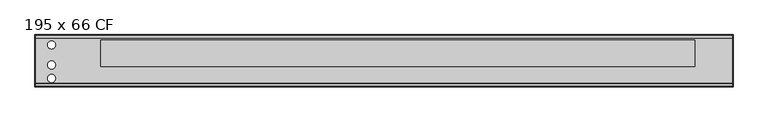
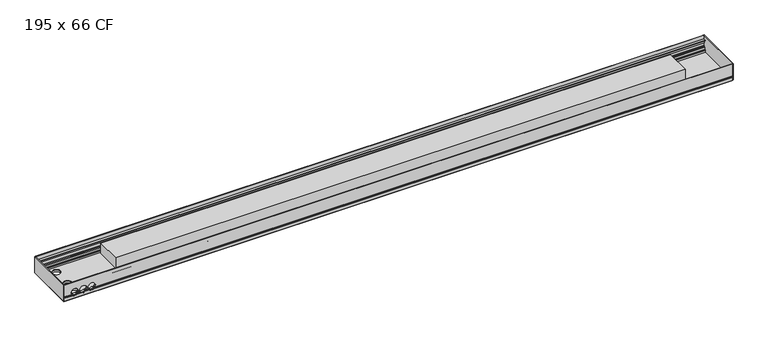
"""IFC4 building model written with IfcOpenShell, lengths in millimetres: proxy geometry, Mohlenhof_Внутрипольный конвектор_QSKM CF : 195 x 66 CF."""

from ifc_helpers import new_model, si_unit, point, frame, frame_2d, origin, place, context, project, spatial, polyline, circle_curve, ellipse_curve, trimmed, segment, composite_curve, outline, extrude, source, transform, mapped, element, save
from ifc_brep_helpers import plane_surface, revolved_surface, advanced_brep


def proxy_195_x_66_cf_5712bf5f(model_context):
    return source(origin(), model_context, "Body", "SolidModel", [
        advanced_brep(
        [(1298.0, -295.0, -48.5473602), (1298.0, -293.5, -49.2468216), (1298.0, -292.5, -49.2468216), (1298.0, -292.5, -46.0008038), (1298.0, -290.0, -46.0008038), (1298.0, -290.0, -56.5008038), (1298.0, -292.5, -56.5008038), (1298.0, -292.5, -53.2468216), (1298.0, -293.5, -53.2468216), (1298.0, -295.0, -53.9462831), (1298.0, -295.0, -66.5), (1298.0, -291.0, -66.5), (1298.0, -291.0, -65.2), (1298.0, -293.0, -65.2), (1298.0, -293.0, -62.5), (1298.0, -282.0, -62.5), (1298.0, -282.0, -54.9172677), (1298.0, -283.4172677, -53.5), (1298.0, -287.0, -53.5), (1298.0, -287.0, -45.91), (1298.0, -289.0, -43.91), (1298.0, -289.0, -39.5), (1298.0, -290.0, -39.5), (1298.0, -290.0, -43.5), (1298.0, -292.4956439, -43.5), (1298.0, -292.4956439, -23.0), (1298.0, -290.0, -23.0), (1298.0, -290.0, -27.0), (1298.0, -289.0, -27.0), (1298.0, -289.0, -17.0), (1298.0, -283.3956439, -17.0), (1298.0, -283.3956439, -15.0), (1298.0, -293.4, -15.0), (1298.0, -293.4, 0.0), (1298.0, -295.0, 0.0), (-1298.0, -295.0, -48.5473602), (-1298.0, -295.0, 0.0), (-1298.0, -293.4, 0.0), (-1298.0, -293.4, -15.0), (-1298.0, -283.3956439, -15.0), (-1298.0, -283.3956439, -17.0), (-1298.0, -289.0, -17.0), (-1298.0, -289.0, -27.0), (-1298.0, -290.0, -27.0), (-1298.0, -290.0, -23.0), (-1298.0, -292.4956439, -23.0), (-1298.0, -292.4956439, -43.5), (-1298.0, -290.0, -43.5), (-1298.0, -290.0, -39.5), (-1298.0, -289.0, -39.5), (-1298.0, -289.0, -43.91), (-1298.0, -287.0, -45.91), (-1298.0, -287.0, -53.5), (-1298.0, -283.4172677, -53.5), (-1298.0, -282.0, -54.9172677), (-1298.0, -282.0, -62.5), (-1298.0, -293.0, -62.5), (-1298.0, -293.0, -65.2), (-1298.0, -291.0, -65.2), (-1298.0, -291.0, -66.5), (-1298.0, -295.0, -66.5), (-1298.0, -295.0, -53.9462831), (-1298.0, -293.5, -53.2468216), (-1298.0, -292.5, -53.2468216), (-1298.0, -292.5, -56.5008038), (-1298.0, -290.0, -56.5008038), (-1298.0, -290.0, -46.0008038), (-1298.0, -292.5, -46.0008038), (-1298.0, -292.5, -49.2468216), (-1298.0, -293.5, -49.2468216), (-1178.7585985, -295.0, -48.5473602), (-1179.155283, -293.5, -49.2468216), (-1270.844717, -293.5, -49.2468216), (-1271.2414015, -295.0, -48.5473602), (-1238.2414015, -295.0, -48.5473602), (-1244.7585985, -295.0, -48.5473602), (-1245.155283, -293.5, -49.2468216), (-1237.844717, -293.5, -49.2468216), (-1205.2414015, -295.0, -48.5473602), (-1211.7585985, -295.0, -48.5473602), (-1212.155283, -293.5, -49.2468216), (-1204.844717, -293.5, -49.2468216), (-1179.155283, -292.5, -49.2468216), (-1270.844717, -292.5, -49.2468216), (-1245.155283, -292.5, -49.2468216), (-1237.844717, -292.5, -49.2468216), (-1212.155283, -292.5, -49.2468216), (-1204.844717, -292.5, -49.2468216), (-1177.6911648, -292.5, -46.0008038), (-1272.3088352, -292.5, -46.0008038), (-1243.6911648, -292.5, -46.0008038), (-1239.3088352, -292.5, -46.0008038), (-1210.6911648, -292.5, -46.0008038), (-1206.3088352, -292.5, -46.0008038), (-1177.6911648, -290.0, -46.0008038), (-1272.3088352, -290.0, -46.0008038), (-1243.6911648, -290.0, -46.0008038), (-1239.3088352, -290.0, -46.0008038), (-1210.6911648, -290.0, -46.0008038), (-1206.3088352, -290.0, -46.0008038), (-1267.328032, -292.5, -53.2468216), (-1248.671968, -292.5, -53.2468216), (-1234.328032, -292.5, -53.2468216), (-1215.671968, -292.5, -53.2468216), (-1201.328032, -292.5, -53.2468216), (-1182.671968, -292.5, -53.2468216), (-1182.671968, -293.5, -53.2468216), (-1267.328032, -293.5, -53.2468216), (-1248.671968, -293.5, -53.2468216), (-1234.328032, -293.5, -53.2468216), (-1215.671968, -293.5, -53.2468216), (-1201.328032, -293.5, -53.2468216), (-1183.6280208, -295.0, -53.9462831), (-1266.3719792, -295.0, -53.9462831), (-1249.6280208, -295.0, -53.9462831), (-1233.3719792, -295.0, -53.9462831), (-1216.6280208, -295.0, -53.9462831), (-1200.3719792, -295.0, -53.9462831), (-1264.7064841, -282.0, -54.9172677), (-1251.2935159, -282.0, -54.9172677), (-1231.7064841, -282.0, -54.9172677), (-1218.2935159, -282.0, -54.9172677), (-1198.7064841, -282.0, -54.9172677), (-1185.2935159, -282.0, -54.9172677), (-1183.0, -283.4172677, -53.5), (-1267.0, -283.4172677, -53.5), (-1249.0, -283.4172677, -53.5), (-1234.0, -283.4172677, -53.5), (-1216.0, -283.4172677, -53.5), (-1201.0, -283.4172677, -53.5), (-1183.0, -287.0, -53.5), (-1267.0, -287.0, -53.5), (-1249.0, -287.0, -53.5), (-1234.0, -287.0, -53.5), (-1216.0, -287.0, -53.5), (-1201.0, -287.0, -53.5), (-1177.6629187, -287.0, -45.91), (-1272.3370813, -287.0, -45.91), (-1243.6629187, -287.0, -45.91), (-1239.3370813, -287.0, -45.91), (-1210.6629187, -287.0, -45.91), (-1206.3370813, -287.0, -45.91), (-1177.1948691, -289.0, -43.91), (-1272.8051309, -289.0, -43.91), (-1243.1948691, -289.0, -43.91), (-1239.8051309, -289.0, -43.91), (-1210.1948691, -289.0, -43.91), (-1206.8051309, -289.0, -43.91), (-1177.0, -289.0, -41.5), (-1177.1339313, -289.0, -39.5), (-1272.8660687, -289.0, -39.5), (-1273.0, -289.0, -41.5), (-1243.0, -289.0, -41.5), (-1243.1339313, -289.0, -39.5), (-1239.8660687, -289.0, -39.5), (-1240.0, -289.0, -41.5), (-1210.0, -289.0, -41.5), (-1210.1339313, -289.0, -39.5), (-1206.8660687, -289.0, -39.5), (-1207.0, -289.0, -41.5), (-1177.1339313, -290.0, -39.5), (-1272.8660687, -290.0, -39.5), (-1243.1339313, -290.0, -39.5), (-1239.8660687, -290.0, -39.5), (-1210.1339313, -290.0, -39.5), (-1206.8660687, -290.0, -39.5), (-1177.0, -290.0, -41.5), (-1177.1339313, -290.0, -43.5), (-1272.8660687, -290.0, -43.5), (-1273.0, -290.0, -41.5), (-1243.0, -290.0, -41.5), (-1243.1339313, -290.0, -43.5), (-1239.8660687, -290.0, -43.5), (-1240.0, -290.0, -41.5), (-1210.0, -290.0, -41.5), (-1210.1339313, -290.0, -43.5), (-1206.8660687, -290.0, -43.5), (-1207.0, -290.0, -41.5), (-1177.1339313, -292.4956439, -43.5), (-1272.8660687, -292.4956439, -43.5), (-1243.1339313, -292.4956439, -43.5), (-1239.8660687, -292.4956439, -43.5), (-1210.1339313, -292.4956439, -43.5), (-1206.8660687, -292.4956439, -43.5), (-1177.0, -292.4956439, -41.5), (-1207.0, -292.4956439, -41.5), (-1210.0, -292.4956439, -41.5), (-1240.0, -292.4956439, -41.5), (-1243.0, -292.4956439, -41.5), (-1273.0, -292.4956439, -41.5), (-1261.8405729, -290.0, -27.0), (-1254.1594271, -290.0, -27.0), (-1228.8405729, -290.0, -27.0), (-1221.1594271, -290.0, -27.0), (-1195.8405729, -290.0, -27.0), (-1188.1594271, -290.0, -27.0), (-1188.1594271, -289.0, -27.0), (-1261.8405729, -289.0, -27.0), (-1254.1594271, -289.0, -27.0), (-1228.8405729, -289.0, -27.0), (-1221.1594271, -289.0, -27.0), (-1195.8405729, -289.0, -27.0), (-1273.0, -295.0, -41.5), (-1243.0, -295.0, -41.5), (-1240.0, -295.0, -41.5), (-1210.0, -295.0, -41.5), (-1207.0, -295.0, -41.5), (-1177.0, -295.0, -41.5)],
        [
            (0, 1),
            (1, 2),
            (2, 3),
            (3, 4),
            (4, 5),
            (5, 6),
            (6, 7),
            (7, 8),
            (8, 9),
            (9, 10),
            (10, 11),
            (11, 12),
            (12, 13),
            (13, 14),
            (14, 15),
            (15, 16),
            (16, 17),
            (17, 18),
            (18, 19),
            (19, 20),
            (20, 21),
            (21, 22),
            (22, 23),
            (23, 24),
            (24, 25),
            (25, 26),
            (26, 27),
            (27, 28),
            (28, 29),
            (29, 30),
            (30, 31),
            (31, 32),
            (32, 33),
            (33, 34),
            (34, 0),
            (35, 36),
            (36, 37),
            (37, 38),
            (38, 39),
            (39, 40),
            (40, 41),
            (41, 42),
            (42, 43),
            (43, 44),
            (44, 45),
            (45, 46),
            (46, 47),
            (47, 48),
            (48, 49),
            (49, 50),
            (50, 51),
            (51, 52),
            (52, 53),
            (53, 54),
            (54, 55),
            (55, 56),
            (56, 57),
            (57, 58),
            (58, 59),
            (59, 60),
            (60, 61),
            (61, 62),
            (62, 63),
            (63, 64),
            (64, 65),
            (65, 66),
            (66, 67),
            (67, 68),
            (68, 69),
            (69, 35),
            (0, 70),
            (70, 71, ellipse_curve(frame((-1192.0, -310.1131126, -41.5), z_axis=(0.0, 0.42261826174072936, 0.9063077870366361), x_axis=(0.0, -0.906307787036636, 0.4226182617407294)), 35.4930237, 15.0)),
            (71, 1),
            (69, 72),
            (72, 73, ellipse_curve(frame((-1258.0, -310.1131126, -41.5), z_axis=(0.0, 0.42261826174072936, 0.9063077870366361), x_axis=(0.0, -0.906307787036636, 0.4226182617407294)), 35.4930237, 15.0)),
            (73, 35),
            (74, 75),
            (75, 76, ellipse_curve(frame((-1258.0, -310.1131126, -41.5), z_axis=(0.0, 0.42261826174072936, 0.9063077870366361), x_axis=(0.0, -0.906307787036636, 0.4226182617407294)), 35.4930237, 15.0)),
            (76, 77),
            (77, 74, ellipse_curve(frame((-1225.0, -310.1131126, -41.5), z_axis=(0.0, 0.42261826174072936, 0.9063077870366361), x_axis=(0.0, -0.906307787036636, 0.4226182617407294)), 35.4930237, 15.0)),
            (78, 79),
            (79, 80, ellipse_curve(frame((-1225.0, -310.1131126, -41.5), z_axis=(0.0, 0.42261826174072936, 0.9063077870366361), x_axis=(0.0, -0.906307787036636, 0.4226182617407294)), 35.4930237, 15.0)),
            (80, 81),
            (81, 78, ellipse_curve(frame((-1192.0, -310.1131126, -41.5), z_axis=(0.0, 0.42261826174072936, 0.9063077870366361), x_axis=(0.0, -0.906307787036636, 0.4226182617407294)), 35.4930237, 15.0)),
            (71, 82),
            (82, 2),
            (68, 83),
            (83, 72),
            (76, 84),
            (84, 85),
            (85, 77),
            (80, 86),
            (86, 87),
            (87, 81),
            (82, 88, circle_curve(frame((-1192.0, -292.5, -41.5), z_axis=(0.0, -1.0, 0.0), x_axis=(1.0, 0.0, 0.0)), 15.0)),
            (88, 3),
            (67, 89),
            (89, 83, circle_curve(frame((-1258.0, -292.5, -41.5), z_axis=(0.0, -1.0, 0.0), x_axis=(1.0, 0.0, 0.0)), 15.0)),
            (84, 90, circle_curve(frame((-1258.0, -292.5, -41.5), z_axis=(0.0, -1.0, 0.0), x_axis=(1.0, 0.0, 0.0)), 15.0)),
            (90, 91),
            (91, 85, circle_curve(frame((-1225.0, -292.5, -41.5), z_axis=(0.0, -1.0, 0.0), x_axis=(1.0, 0.0, 0.0)), 15.0)),
            (86, 92, circle_curve(frame((-1225.0, -292.5, -41.5), z_axis=(0.0, -1.0, 0.0), x_axis=(1.0, 0.0, 0.0)), 15.0)),
            (92, 93),
            (93, 87, circle_curve(frame((-1192.0, -292.5, -41.5), z_axis=(0.0, -1.0, 0.0), x_axis=(1.0, 0.0, 0.0)), 15.0)),
            (88, 94),
            (94, 4),
            (66, 95),
            (95, 89),
            (90, 96),
            (96, 97),
            (97, 91),
            (92, 98),
            (98, 99),
            (99, 93),
            (94, 99, circle_curve(frame((-1192.0, -290.0, -41.5), z_axis=(0.0, 1.0, 0.0), x_axis=(1.0, 0.0, 0.0)), 15.0)),
            (98, 97, circle_curve(frame((-1225.0, -290.0, -41.5), z_axis=(0.0, 1.0, 0.0), x_axis=(1.0, 0.0, 0.0)), 15.0)),
            (96, 95, circle_curve(frame((-1258.0, -290.0, -41.5), z_axis=(0.0, 1.0, 0.0), x_axis=(1.0, 0.0, 0.0)), 15.0)),
            (65, 5),
            (64, 6),
            (63, 100),
            (100, 101, circle_curve(frame((-1258.0, -292.5, -41.5), z_axis=(0.0, -1.0, 0.0), x_axis=(1.0, 0.0, 0.0)), 15.0)),
            (101, 102),
            (102, 103, circle_curve(frame((-1225.0, -292.5, -41.5), z_axis=(0.0, -1.0, 0.0), x_axis=(1.0, 0.0, 0.0)), 15.0)),
            (103, 104),
            (104, 105, circle_curve(frame((-1192.0, -292.5, -41.5), z_axis=(0.0, -1.0, 0.0), x_axis=(1.0, 0.0, 0.0)), 15.0)),
            (105, 7),
            (105, 106),
            (106, 8),
            (62, 107),
            (107, 100),
            (101, 108),
            (108, 109),
            (109, 102),
            (103, 110),
            (110, 111),
            (111, 104),
            (106, 112, ellipse_curve(frame((-1192.0, -268.3088597, -41.5), z_axis=(0.0, 0.4226182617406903, -0.9063077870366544), x_axis=(0.0, -0.9063077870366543, -0.42261826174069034)), 35.4930237, 15.0)),
            (112, 9),
            (61, 113),
            (113, 107, ellipse_curve(frame((-1258.0, -268.3088597, -41.5), z_axis=(0.0, 0.4226182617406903, -0.9063077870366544), x_axis=(0.0, -0.9063077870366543, -0.42261826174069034)), 35.4930237, 15.0)),
            (108, 114, ellipse_curve(frame((-1258.0, -268.3088597, -41.5), z_axis=(0.0, 0.4226182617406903, -0.9063077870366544), x_axis=(0.0, -0.9063077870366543, -0.42261826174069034)), 35.4930237, 15.0)),
            (114, 115),
            (115, 109, ellipse_curve(frame((-1225.0, -268.3088597, -41.5), z_axis=(0.0, 0.4226182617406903, -0.9063077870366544), x_axis=(0.0, -0.9063077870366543, -0.42261826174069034)), 35.4930237, 15.0)),
            (110, 116, ellipse_curve(frame((-1225.0, -268.3088597, -41.5), z_axis=(0.0, 0.4226182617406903, -0.9063077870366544), x_axis=(0.0, -0.9063077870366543, -0.42261826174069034)), 35.4930237, 15.0)),
            (116, 117),
            (117, 111, ellipse_curve(frame((-1192.0, -268.3088597, -41.5), z_axis=(0.0, 0.4226182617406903, -0.9063077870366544), x_axis=(0.0, -0.9063077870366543, -0.42261826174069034)), 35.4930237, 15.0)),
            (112, 117, circle_curve(frame((-1192.0, -295.0, -41.5), z_axis=(0.0, 1.0, 0.0), x_axis=(1.0, 0.0, 0.0)), 15.0)),
            (116, 115, circle_curve(frame((-1225.0, -295.0, -41.5), z_axis=(0.0, 1.0, 0.0), x_axis=(1.0, 0.0, 0.0)), 15.0)),
            (114, 113, circle_curve(frame((-1258.0, -295.0, -41.5), z_axis=(0.0, 1.0, 0.0), x_axis=(1.0, 0.0, 0.0)), 15.0)),
            (60, 10),
            (59, 11),
            (58, 12),
            (57, 13),
            (56, 14),
            (55, 15),
            (54, 118),
            (118, 119, circle_curve(frame((-1258.0, -282.0, -41.5), z_axis=(0.0, -1.0, 0.0), x_axis=(1.0, 0.0, 0.0)), 15.0)),
            (119, 120),
            (120, 121, circle_curve(frame((-1225.0, -282.0, -41.5), z_axis=(0.0, -1.0, 0.0), x_axis=(1.0, 0.0, 0.0)), 15.0)),
            (121, 122),
            (122, 123, circle_curve(frame((-1192.0, -282.0, -41.5), z_axis=(0.0, -1.0, 0.0), x_axis=(1.0, 0.0, 0.0)), 15.0)),
            (123, 16),
            (123, 124, ellipse_curve(frame((-1192.0, -295.4172677, -41.5), z_axis=(0.0, -0.7071067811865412, -0.7071067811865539), x_axis=(0.0, -0.7071067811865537, 0.7071067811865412)), 21.2132034, 15.0)),
            (124, 17),
            (53, 125),
            (125, 118, ellipse_curve(frame((-1258.0, -295.4172677, -41.5), z_axis=(0.0, -0.7071067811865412, -0.7071067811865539), x_axis=(0.0, -0.7071067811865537, 0.7071067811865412)), 21.2132034, 15.0)),
            (119, 126, ellipse_curve(frame((-1258.0, -295.4172677, -41.5), z_axis=(0.0, -0.7071067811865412, -0.7071067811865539), x_axis=(0.0, -0.7071067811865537, 0.7071067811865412)), 21.2132034, 15.0)),
            (126, 127),
            (127, 120, ellipse_curve(frame((-1225.0, -295.4172677, -41.5), z_axis=(0.0, -0.7071067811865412, -0.7071067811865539), x_axis=(0.0, -0.7071067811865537, 0.7071067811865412)), 21.2132034, 15.0)),
            (121, 128, ellipse_curve(frame((-1225.0, -295.4172677, -41.5), z_axis=(0.0, -0.7071067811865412, -0.7071067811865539), x_axis=(0.0, -0.7071067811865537, 0.7071067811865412)), 21.2132034, 15.0)),
            (128, 129),
            (129, 122, ellipse_curve(frame((-1192.0, -295.4172677, -41.5), z_axis=(0.0, -0.7071067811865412, -0.7071067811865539), x_axis=(0.0, -0.7071067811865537, 0.7071067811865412)), 21.2132034, 15.0)),
            (124, 130),
            (130, 18),
            (52, 131),
            (131, 125),
            (126, 132),
            (132, 133),
            (133, 127),
            (128, 134),
            (134, 135),
            (135, 129),
            (130, 136, circle_curve(frame((-1192.0, -287.0, -41.5), z_axis=(0.0, -1.0, 0.0), x_axis=(1.0, 0.0, 0.0)), 15.0)),
            (136, 19),
            (51, 137),
            (137, 131, circle_curve(frame((-1258.0, -287.0, -41.5), z_axis=(0.0, -1.0, 0.0), x_axis=(1.0, 0.0, 0.0)), 15.0)),
            (132, 138, circle_curve(frame((-1258.0, -287.0, -41.5), z_axis=(0.0, -1.0, 0.0), x_axis=(1.0, 0.0, 0.0)), 15.0)),
            (138, 139),
            (139, 133, circle_curve(frame((-1225.0, -287.0, -41.5), z_axis=(0.0, -1.0, 0.0), x_axis=(1.0, 0.0, 0.0)), 15.0)),
            (134, 140, circle_curve(frame((-1225.0, -287.0, -41.5), z_axis=(0.0, -1.0, 0.0), x_axis=(1.0, 0.0, 0.0)), 15.0)),
            (140, 141),
            (141, 135, circle_curve(frame((-1192.0, -287.0, -41.5), z_axis=(0.0, -1.0, 0.0), x_axis=(1.0, 0.0, 0.0)), 15.0)),
            (136, 142, ellipse_curve(frame((-1192.0, -291.41, -41.5), z_axis=(0.0, -0.7071067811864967, -0.7071067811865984), x_axis=(0.0, -0.7071067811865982, 0.7071067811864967)), 21.2132034, 15.0)),
            (142, 20),
            (50, 143),
            (143, 137, ellipse_curve(frame((-1258.0, -291.41, -41.5), z_axis=(0.0, -0.7071067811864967, -0.7071067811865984), x_axis=(0.0, -0.7071067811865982, 0.7071067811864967)), 21.2132034, 15.0)),
            (138, 144, ellipse_curve(frame((-1258.0, -291.41, -41.5), z_axis=(0.0, -0.7071067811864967, -0.7071067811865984), x_axis=(0.0, -0.7071067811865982, 0.7071067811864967)), 21.2132034, 15.0)),
            (144, 145),
            (145, 139, ellipse_curve(frame((-1225.0, -291.41, -41.5), z_axis=(0.0, -0.7071067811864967, -0.7071067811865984), x_axis=(0.0, -0.7071067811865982, 0.7071067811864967)), 21.2132034, 15.0)),
            (140, 146, ellipse_curve(frame((-1225.0, -291.41, -41.5), z_axis=(0.0, -0.7071067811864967, -0.7071067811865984), x_axis=(0.0, -0.7071067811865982, 0.7071067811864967)), 21.2132034, 15.0)),
            (146, 147),
            (147, 141, ellipse_curve(frame((-1192.0, -291.41, -41.5), z_axis=(0.0, -0.7071067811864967, -0.7071067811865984), x_axis=(0.0, -0.7071067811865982, 0.7071067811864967)), 21.2132034, 15.0)),
            (142, 148, circle_curve(frame((-1192.0, -289.0, -41.5), z_axis=(0.0, -1.0, 0.0), x_axis=(1.0, 0.0, 0.0)), 15.0)),
            (148, 149, circle_curve(frame((-1192.0, -289.0, -41.5), z_axis=(0.0, -1.0, 0.0), x_axis=(1.0, 0.0, 0.0)), 15.0)),
            (149, 21),
            (49, 150),
            (150, 151, circle_curve(frame((-1258.0, -289.0, -41.5), z_axis=(0.0, -1.0, 0.0), x_axis=(1.0, 0.0, 0.0)), 15.0)),
            (151, 143, circle_curve(frame((-1258.0, -289.0, -41.5), z_axis=(0.0, -1.0, 0.0), x_axis=(1.0, 0.0, 0.0)), 15.0)),
            (144, 152, circle_curve(frame((-1258.0, -289.0, -41.5), z_axis=(0.0, -1.0, 0.0), x_axis=(1.0, 0.0, 0.0)), 15.0)),
            (152, 153, circle_curve(frame((-1258.0, -289.0, -41.5), z_axis=(0.0, -1.0, 0.0), x_axis=(1.0, 0.0, 0.0)), 15.0)),
            (153, 154),
            (154, 155, circle_curve(frame((-1225.0, -289.0, -41.5), z_axis=(0.0, -1.0, 0.0), x_axis=(1.0, 0.0, 0.0)), 15.0)),
            (155, 145, circle_curve(frame((-1225.0, -289.0, -41.5), z_axis=(0.0, -1.0, 0.0), x_axis=(1.0, 0.0, 0.0)), 15.0)),
            (146, 156, circle_curve(frame((-1225.0, -289.0, -41.5), z_axis=(0.0, -1.0, 0.0), x_axis=(1.0, 0.0, 0.0)), 15.0)),
            (156, 157, circle_curve(frame((-1225.0, -289.0, -41.5), z_axis=(0.0, -1.0, 0.0), x_axis=(1.0, 0.0, 0.0)), 15.0)),
            (157, 158),
            (158, 159, circle_curve(frame((-1192.0, -289.0, -41.5), z_axis=(0.0, -1.0, 0.0), x_axis=(1.0, 0.0, 0.0)), 15.0)),
            (159, 147, circle_curve(frame((-1192.0, -289.0, -41.5), z_axis=(0.0, -1.0, 0.0), x_axis=(1.0, 0.0, 0.0)), 15.0)),
            (149, 160),
            (160, 22),
            (48, 161),
            (161, 150),
            (153, 162),
            (162, 163),
            (163, 154),
            (157, 164),
            (164, 165),
            (165, 158),
            (160, 166, circle_curve(frame((-1192.0, -290.0, -41.5), z_axis=(0.0, 1.0, 0.0), x_axis=(1.0, 0.0, 0.0)), 15.0)),
            (166, 167, circle_curve(frame((-1192.0, -290.0, -41.5), z_axis=(0.0, 1.0, 0.0), x_axis=(1.0, 0.0, 0.0)), 15.0)),
            (167, 23),
            (47, 168),
            (168, 169, circle_curve(frame((-1258.0, -290.0, -41.5), z_axis=(0.0, 1.0, 0.0), x_axis=(1.0, 0.0, 0.0)), 15.0)),
            (169, 161, circle_curve(frame((-1258.0, -290.0, -41.5), z_axis=(0.0, 1.0, 0.0), x_axis=(1.0, 0.0, 0.0)), 15.0)),
            (162, 170, circle_curve(frame((-1258.0, -290.0, -41.5), z_axis=(0.0, 1.0, 0.0), x_axis=(1.0, 0.0, 0.0)), 15.0)),
            (170, 171, circle_curve(frame((-1258.0, -290.0, -41.5), z_axis=(0.0, 1.0, 0.0), x_axis=(1.0, 0.0, 0.0)), 15.0)),
            (171, 172),
            (172, 173, circle_curve(frame((-1225.0, -290.0, -41.5), z_axis=(0.0, 1.0, 0.0), x_axis=(1.0, 0.0, 0.0)), 15.0)),
            (173, 163, circle_curve(frame((-1225.0, -290.0, -41.5), z_axis=(0.0, 1.0, 0.0), x_axis=(1.0, 0.0, 0.0)), 15.0)),
            (164, 174, circle_curve(frame((-1225.0, -290.0, -41.5), z_axis=(0.0, 1.0, 0.0), x_axis=(1.0, 0.0, 0.0)), 15.0)),
            (174, 175, circle_curve(frame((-1225.0, -290.0, -41.5), z_axis=(0.0, 1.0, 0.0), x_axis=(1.0, 0.0, 0.0)), 15.0)),
            (175, 176),
            (176, 177, circle_curve(frame((-1192.0, -290.0, -41.5), z_axis=(0.0, 1.0, 0.0), x_axis=(1.0, 0.0, 0.0)), 15.0)),
            (177, 165, circle_curve(frame((-1192.0, -290.0, -41.5), z_axis=(0.0, 1.0, 0.0), x_axis=(1.0, 0.0, 0.0)), 15.0)),
            (167, 178),
            (178, 24),
            (46, 179),
            (179, 168),
            (171, 180),
            (180, 181),
            (181, 172),
            (175, 182),
            (182, 183),
            (183, 176),
            (178, 184, circle_curve(frame((-1192.0, -292.4956439, -41.5), z_axis=(0.0, -1.0, 0.0), x_axis=(1.0, 0.0, 0.0)), 15.0)),
            (184, 185, circle_curve(frame((-1192.0, -292.4956439, -41.5), z_axis=(0.0, -1.0, 0.0), x_axis=(1.0, 0.0, 0.0)), 15.0)),
            (185, 183, circle_curve(frame((-1192.0, -292.4956439, -41.5), z_axis=(0.0, -1.0, 0.0), x_axis=(1.0, 0.0, 0.0)), 15.0)),
            (182, 186, circle_curve(frame((-1225.0, -292.4956439, -41.5), z_axis=(0.0, -1.0, 0.0), x_axis=(1.0, 0.0, 0.0)), 15.0)),
            (186, 187, circle_curve(frame((-1225.0, -292.4956439, -41.5), z_axis=(0.0, -1.0, 0.0), x_axis=(1.0, 0.0, 0.0)), 15.0)),
            (187, 181, circle_curve(frame((-1225.0, -292.4956439, -41.5), z_axis=(0.0, -1.0, 0.0), x_axis=(1.0, 0.0, 0.0)), 15.0)),
            (180, 188, circle_curve(frame((-1258.0, -292.4956439, -41.5), z_axis=(0.0, -1.0, 0.0), x_axis=(1.0, 0.0, 0.0)), 15.0)),
            (188, 189, circle_curve(frame((-1258.0, -292.4956439, -41.5), z_axis=(0.0, -1.0, 0.0), x_axis=(1.0, 0.0, 0.0)), 15.0)),
            (189, 179, circle_curve(frame((-1258.0, -292.4956439, -41.5), z_axis=(0.0, -1.0, 0.0), x_axis=(1.0, 0.0, 0.0)), 15.0)),
            (45, 25),
            (44, 26),
            (43, 190),
            (190, 191, circle_curve(frame((-1258.0, -290.0, -41.5), z_axis=(0.0, 1.0, 0.0), x_axis=(1.0, 0.0, 0.0)), 15.0)),
            (191, 192),
            (192, 193, circle_curve(frame((-1225.0, -290.0, -41.5), z_axis=(0.0, 1.0, 0.0), x_axis=(1.0, 0.0, 0.0)), 15.0)),
            (193, 194),
            (194, 195, circle_curve(frame((-1192.0, -290.0, -41.5), z_axis=(0.0, 1.0, 0.0), x_axis=(1.0, 0.0, 0.0)), 15.0)),
            (195, 27),
            (195, 196),
            (196, 28),
            (42, 197),
            (197, 190),
            (191, 198),
            (198, 199),
            (199, 192),
            (193, 200),
            (200, 201),
            (201, 194),
            (196, 201, circle_curve(frame((-1192.0, -289.0, -41.5), z_axis=(0.0, -1.0, 0.0), x_axis=(1.0, 0.0, 0.0)), 15.0)),
            (200, 199, circle_curve(frame((-1225.0, -289.0, -41.5), z_axis=(0.0, -1.0, 0.0), x_axis=(1.0, 0.0, 0.0)), 15.0)),
            (198, 197, circle_curve(frame((-1258.0, -289.0, -41.5), z_axis=(0.0, -1.0, 0.0), x_axis=(1.0, 0.0, 0.0)), 15.0)),
            (41, 29),
            (40, 30),
            (39, 31),
            (38, 32),
            (37, 33),
            (36, 34),
            (73, 202, circle_curve(frame((-1258.0, -295.0, -41.5), z_axis=(0.0, 1.0, 0.0), x_axis=(1.0, 0.0, 0.0)), 15.0)),
            (202, 203, circle_curve(frame((-1258.0, -295.0, -41.5), z_axis=(0.0, 1.0, 0.0), x_axis=(1.0, 0.0, 0.0)), 15.0)),
            (203, 75, circle_curve(frame((-1258.0, -295.0, -41.5), z_axis=(0.0, 1.0, 0.0), x_axis=(1.0, 0.0, 0.0)), 15.0)),
            (74, 204, circle_curve(frame((-1225.0, -295.0, -41.5), z_axis=(0.0, 1.0, 0.0), x_axis=(1.0, 0.0, 0.0)), 15.0)),
            (204, 205, circle_curve(frame((-1225.0, -295.0, -41.5), z_axis=(0.0, 1.0, 0.0), x_axis=(1.0, 0.0, 0.0)), 15.0)),
            (205, 79, circle_curve(frame((-1225.0, -295.0, -41.5), z_axis=(0.0, 1.0, 0.0), x_axis=(1.0, 0.0, 0.0)), 15.0)),
            (78, 206, circle_curve(frame((-1192.0, -295.0, -41.5), z_axis=(0.0, 1.0, 0.0), x_axis=(1.0, 0.0, 0.0)), 15.0)),
            (206, 207, circle_curve(frame((-1192.0, -295.0, -41.5), z_axis=(0.0, 1.0, 0.0), x_axis=(1.0, 0.0, 0.0)), 15.0)),
            (207, 70, circle_curve(frame((-1192.0, -295.0, -41.5), z_axis=(0.0, 1.0, 0.0), x_axis=(1.0, 0.0, 0.0)), 15.0)),
            (151, 169),
            (189, 202),
            (203, 188),
            (170, 152),
            (155, 173),
            (187, 204),
            (205, 186),
            (174, 156),
            (159, 177),
            (185, 206),
            (207, 184),
            (166, 148),
        ],
        [
            plane_surface(frame((1298.0, -293.0, -62.5), z_axis=(1.0, 0.0, 0.0), x_axis=(0.0, 0.0, 1.0))),
            plane_surface(frame((-1298.0, -293.0, -62.5), z_axis=(-1.0, 0.0, 0.0), x_axis=(0.0, 0.0, 1.0))),
            plane_surface(frame((1298.0, -295.0, -48.5473602), z_axis=(0.0, -0.42261826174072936, -0.9063077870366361), x_axis=(-1.0, 0.0, 0.0))),
            plane_surface(frame((1298.0, -293.5, -49.2468216), z_axis=(0.0, 0.0, -1.0), x_axis=(-1.0, 0.0, 0.0))),
            plane_surface(frame((1298.0, -292.5, -49.2468216), z_axis=(0.0, 1.0, 0.0), x_axis=(-1.0, 0.0, 0.0))),
            plane_surface(frame((1298.0, -292.5, -46.0008038), z_axis=(0.0, 0.0, -1.0), x_axis=(-1.0, 0.0, 0.0))),
            plane_surface(frame((1298.0, -290.0, -46.0008038), z_axis=(0.0, -1.0, 0.0), x_axis=(-1.0, 0.0, 0.0))),
            plane_surface(frame((1298.0, -290.0, -56.5008038), z_axis=(0.0, 0.0, 1.0), x_axis=(-1.0, 0.0, 0.0))),
            plane_surface(frame((1298.0, -292.5, -56.5008038), z_axis=(0.0, 1.0, 0.0), x_axis=(-1.0, 0.0, 0.0))),
            plane_surface(frame((1298.0, -292.5, -53.2468216), z_axis=(0.0, 0.0, 1.0), x_axis=(-1.0, 0.0, 0.0))),
            plane_surface(frame((1298.0, -293.5, -53.2468216), z_axis=(0.0, -0.4226182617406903, 0.9063077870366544), x_axis=(-1.0, 0.0, 0.0))),
            plane_surface(frame((1298.0, -295.0, -53.9462831), z_axis=(0.0, -1.0, 0.0), x_axis=(-1.0, 0.0, 0.0))),
            plane_surface(frame((1298.0, -295.0, -66.5), z_axis=(0.0, 0.0, -1.0), x_axis=(-1.0, 0.0, 0.0))),
            plane_surface(frame((1298.0, -291.0, -66.5), z_axis=(0.0, 1.0, 0.0), x_axis=(-1.0, 0.0, 0.0))),
            plane_surface(frame((1298.0, -291.0, -65.2), z_axis=(0.0, 0.0, 1.0), x_axis=(-1.0, 0.0, 0.0))),
            plane_surface(frame((1298.0, -293.0, -65.2), z_axis=(0.0, 1.0, 0.0), x_axis=(-1.0, 0.0, 0.0))),
            plane_surface(frame((1298.0, -293.0, -62.5), z_axis=(0.0, 0.0, -1.0), x_axis=(-1.0, 0.0, 0.0))),
            plane_surface(frame((1298.0, -282.0, -62.5), z_axis=(0.0, 1.0, 0.0), x_axis=(-1.0, 0.0, 0.0))),
            plane_surface(frame((1298.0, -282.0, -54.9172677), z_axis=(0.0, 0.7071067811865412, 0.7071067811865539), x_axis=(-1.0, 0.0, 0.0))),
            plane_surface(frame((1298.0, -283.4172677, -53.5), z_axis=(0.0, 0.0, 1.0), x_axis=(-1.0, 0.0, 0.0))),
            plane_surface(frame((1298.0, -287.0, -53.5), z_axis=(0.0, 1.0, 0.0), x_axis=(-1.0, 0.0, 0.0))),
            plane_surface(frame((1298.0, -287.0, -45.91), z_axis=(0.0, 0.7071067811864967, 0.7071067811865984), x_axis=(-1.0, 0.0, 0.0))),
            plane_surface(frame((1298.0, -289.0, -43.91), z_axis=(0.0, 1.0, 0.0), x_axis=(-1.0, 0.0, 0.0))),
            plane_surface(frame((1298.0, -289.0, -39.5), z_axis=(0.0, 0.0, 1.0), x_axis=(-1.0, 0.0, 0.0))),
            plane_surface(frame((1298.0, -290.0, -39.5), z_axis=(0.0, -1.0, 0.0), x_axis=(-1.0, 0.0, 0.0))),
            plane_surface(frame((1298.0, -290.0, -43.5), z_axis=(0.0, 0.0, 1.0), x_axis=(-1.0, 0.0, 0.0))),
            plane_surface(frame((1298.0, -292.4956439, -43.5), z_axis=(0.0, 1.0, 0.0), x_axis=(-1.0, 0.0, 0.0))),
            plane_surface(frame((1298.0, -292.4956439, -23.0), z_axis=(0.0, 0.0, -1.0), x_axis=(-1.0, 0.0, 0.0))),
            plane_surface(frame((1298.0, -290.0, -23.0), z_axis=(0.0, -1.0, 0.0), x_axis=(-1.0, 0.0, 0.0))),
            plane_surface(frame((1298.0, -290.0, -27.0), z_axis=(0.0, 0.0, -1.0), x_axis=(-1.0, 0.0, 0.0))),
            plane_surface(frame((1298.0, -289.0, -27.0), z_axis=(0.0, 1.0, 0.0), x_axis=(-1.0, 0.0, 0.0))),
            plane_surface(frame((1298.0, -289.0, -17.0), z_axis=(0.0, 0.0, -1.0), x_axis=(-1.0, 0.0, 0.0))),
            plane_surface(frame((1298.0, -283.3956439, -17.0), z_axis=(0.0, 1.0, 0.0), x_axis=(-1.0, 0.0, 0.0))),
            plane_surface(frame((1298.0, -283.3956439, -15.0), z_axis=(0.0, 0.0, 1.0), x_axis=(-1.0, 0.0, 0.0))),
            plane_surface(frame((1298.0, -293.4, -15.0), z_axis=(0.0, 1.0, 0.0), x_axis=(-1.0, 0.0, 0.0))),
            plane_surface(frame((1298.0, -293.4, 0.0), z_axis=(0.0, 0.0, 1.0), x_axis=(-1.0, 0.0, 0.0))),
            plane_surface(frame((1298.0, -295.0, 0.0), z_axis=(0.0, -1.0, 0.0), x_axis=(-1.0, 0.0, 0.0))),
            revolved_surface(polyline([(-1243.0, -300.47646346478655, -41.5), (-1243.0, -236.1412559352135, -41.5)]), (-1258.0, -263.0, -41.5), (0.0, -1.0, 0.0)),
            revolved_surface(polyline([(-1243.0, -342.2807163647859, -41.5), (-1243.0, -276.41000002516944, -41.5)]), (-1258.0, -263.0, -41.5), (0.0, -1.0, 0.0)),
            revolved_surface(polyline([(-1243.0, -290.0, -41.5), (-1243.0, -289.0, -41.5)]), (-1258.0, -263.0, -41.5), (0.0, -1.0, 0.0)),
            revolved_surface(polyline([(-1243.0, -295.0, -41.5), (-1243.0, -292.4956439, -41.5)]), (-1258.0, -263.0, -41.5), (0.0, -1.0, 0.0)),
            revolved_surface(polyline([(-1210.0, -300.47646346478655, -41.5), (-1210.0, -236.1412559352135, -41.5)]), (-1225.0, 0.0, -41.5), (0.0, -1.0, 0.0)),
            revolved_surface(polyline([(-1210.0, -342.2807163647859, -41.5), (-1210.0, -276.41000002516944, -41.5)]), (-1225.0, 0.0, -41.5), (0.0, -1.0, 0.0)),
            revolved_surface(polyline([(-1210.0, -290.0, -41.5), (-1210.0, -289.0, -41.5)]), (-1225.0, 0.0, -41.5), (0.0, -1.0, 0.0)),
            revolved_surface(polyline([(-1210.0, -295.0, -41.5), (-1210.0, -292.4956439, -41.5)]), (-1225.0, 0.0, -41.5), (0.0, -1.0, 0.0)),
            revolved_surface(polyline([(-1177.0, -300.47646346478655, -41.5), (-1177.0, -236.1412559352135, -41.5)]), (-1192.0, 0.0, -41.5), (0.0, -1.0, 0.0)),
            revolved_surface(polyline([(-1177.0, -342.2807163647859, -41.5), (-1177.0, -276.41000002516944, -41.5)]), (-1192.0, 0.0, -41.5), (0.0, -1.0, 0.0)),
            revolved_surface(polyline([(-1177.0, -290.0, -41.5), (-1177.0, -289.0, -41.5)]), (-1192.0, 0.0, -41.5), (0.0, -1.0, 0.0)),
            revolved_surface(polyline([(-1177.0, -295.0, -41.5), (-1177.0, -292.4956439, -41.5)]), (-1192.0, 0.0, -41.5), (0.0, -1.0, 0.0)),
        ],
        [
            (0, [[1, 2, 3, 4, 5, 6, 7, 8, 9, 10, 11, 12, 13, 14, 15, 16, 17, 18, 19, 20, 21, 22, 23, 24, 25, 26, 27, 28, 29, 30, 31, 32, 33, 34, 35]]),
            (1, [[36, 37, 38, 39, 40, 41, 42, 43, 44, 45, 46, 47, 48, 49, 50, 51, 52, 53, 54, 55, 56, 57, 58, 59, 60, 61, 62, 63, 64, 65, 66, 67, 68, 69, 70]]),
            (2, [[-1, 71, 72, 73]]),
            (2, [[-70, 74, 75, 76]]),
            (2, [[77, 78, 79, 80]]),
            (2, [[81, 82, 83, 84]]),
            (3, [[-2, -73, 85, 86]]),
            (3, [[-69, 87, 88, -74]]),
            (3, [[-79, 89, 90, 91]]),
            (3, [[-83, 92, 93, 94]]),
            (4, [[-3, -86, 95, 96]]),
            (4, [[-68, 97, 98, -87]]),
            (4, [[-90, 99, 100, 101]]),
            (4, [[-93, 102, 103, 104]]),
            (5, [[-4, -96, 105, 106]]),
            (5, [[-67, 107, 108, -97]]),
            (5, [[-100, 109, 110, 111]]),
            (5, [[-103, 112, 113, 114]]),
            (6, [[-5, -106, 115, -113, 116, -110, 117, -107, -66, 118]]),
            (7, [[-6, -118, -65, 119]]),
            (8, [[-7, -119, -64, 120, 121, 122, 123, 124, 125, 126]]),
            (9, [[-8, -126, 127, 128]]),
            (9, [[-63, 129, 130, -120]]),
            (9, [[-122, 131, 132, 133]]),
            (9, [[-124, 134, 135, 136]]),
            (10, [[-9, -128, 137, 138]]),
            (10, [[-62, 139, 140, -129]]),
            (10, [[-132, 141, 142, 143]]),
            (10, [[-135, 144, 145, 146]]),
            (11, [[-10, -138, 147, -145, 148, -142, 149, -139, -61, 150]]),
            (12, [[-11, -150, -60, 151]]),
            (13, [[-12, -151, -59, 152]]),
            (14, [[-13, -152, -58, 153]]),
            (15, [[-14, -153, -57, 154]]),
            (16, [[-15, -154, -56, 155]]),
            (17, [[-16, -155, -55, 156, 157, 158, 159, 160, 161, 162]]),
            (18, [[-17, -162, 163, 164]]),
            (18, [[-54, 165, 166, -156]]),
            (18, [[-158, 167, 168, 169]]),
            (18, [[-160, 170, 171, 172]]),
            (19, [[-18, -164, 173, 174]]),
            (19, [[-53, 175, 176, -165]]),
            (19, [[-168, 177, 178, 179]]),
            (19, [[-171, 180, 181, 182]]),
            (20, [[-19, -174, 183, 184]]),
            (20, [[-52, 185, 186, -175]]),
            (20, [[-178, 187, 188, 189]]),
            (20, [[-181, 190, 191, 192]]),
            (21, [[-20, -184, 193, 194]]),
            (21, [[-51, 195, 196, -185]]),
            (21, [[-188, 197, 198, 199]]),
            (21, [[-191, 200, 201, 202]]),
            (22, [[-21, -194, 203, 204, 205]]),
            (22, [[-50, 206, 207, 208, -195]]),
            (22, [[-198, 209, 210, 211, 212, 213]]),
            (22, [[-201, 214, 215, 216, 217, 218]]),
            (23, [[-22, -205, 219, 220]]),
            (23, [[-49, 221, 222, -206]]),
            (23, [[-211, 223, 224, 225]]),
            (23, [[-216, 226, 227, 228]]),
            (24, [[-23, -220, 229, 230, 231]]),
            (24, [[-48, 232, 233, 234, -221]]),
            (24, [[-224, 235, 236, 237, 238, 239]]),
            (24, [[-227, 240, 241, 242, 243, 244]]),
            (25, [[-24, -231, 245, 246]]),
            (25, [[-47, 247, 248, -232]]),
            (25, [[-237, 249, 250, 251]]),
            (25, [[-242, 252, 253, 254]]),
            (26, [[-25, -246, 255, 256, 257, -253, 258, 259, 260, -250, 261, 262, 263, -247, -46, 264]]),
            (27, [[-26, -264, -45, 265]]),
            (28, [[-27, -265, -44, 266, 267, 268, 269, 270, 271, 272]]),
            (29, [[-28, -272, 273, 274]]),
            (29, [[-43, 275, 276, -266]]),
            (29, [[-268, 277, 278, 279]]),
            (29, [[-270, 280, 281, 282]]),
            (30, [[-29, -274, 283, -281, 284, -278, 285, -275, -42, 286]]),
            (31, [[-30, -286, -41, 287]]),
            (32, [[-31, -287, -40, 288]]),
            (33, [[-32, -288, -39, 289]]),
            (34, [[-33, -289, -38, 290]]),
            (35, [[-34, -290, -37, 291]]),
            (36, [[-35, -291, -36, -76, 292, 293, 294, -77, 295, 296, 297, -81, 298, 299, 300, -71]]),
            (37, [[-121, -130, -140, -149, -141, -131]]),
            (38, [[301, -233, -248, -263, 302, -292, -75, -88, -98, -108, -117, -109, -99, -89, -78, -294, 303, -261, -249, -236, 304, -209, -197, -187, -177, -167, -157, -166, -176, -186, -196, -208]]),
            (39, [[-267, -276, -285, -277]]),
            (39, [[-301, -207, -222, -234]]),
            (40, [[-302, -262, -303, -293]]),
            (39, [[-304, -235, -223, -210]]),
            (41, [[-123, -133, -143, -148, -144, -134]]),
            (42, [[305, -238, -251, -260, 306, -295, -80, -91, -101, -111, -116, -112, -102, -92, -82, -297, 307, -258, -252, -241, 308, -214, -200, -190, -180, -170, -159, -169, -179, -189, -199, -213]]),
            (43, [[-269, -279, -284, -280]]),
            (43, [[-305, -212, -225, -239]]),
            (44, [[-306, -259, -307, -296]]),
            (43, [[-308, -240, -226, -215]]),
            (45, [[-125, -136, -146, -147, -137, -127]]),
            (46, [[309, -243, -254, -257, 310, -298, -84, -94, -104, -114, -115, -105, -95, -85, -72, -300, 311, -255, -245, -230, 312, -203, -193, -183, -173, -163, -161, -172, -182, -192, -202, -218]]),
            (47, [[-271, -282, -283, -273]]),
            (47, [[-309, -217, -228, -244]]),
            (48, [[-310, -256, -311, -299]]),
            (47, [[-312, -229, -219, -204]]),
        ],
    ),
        extrude(outline(polyline([(-100.0, -48.5473602), (-101.5, -49.2468216), (-102.5, -49.2468216), (-102.5, -46.0008038), (-105.0, -46.0008038), (-105.0, -56.5008038), (-102.5, -56.5008038), (-102.5, -53.2468216), (-101.5, -53.2468216), (-100.0, -53.9462831), (-100.0, -66.5), (-104.0, -66.5), (-104.0, -65.2), (-102.0, -65.2), (-102.0, -62.5), (-113.0, -62.5), (-113.0, -54.9172677), (-111.5827323, -53.5), (-108.0, -53.5), (-108.0, -45.91), (-106.0, -43.91), (-106.0, -39.5), (-105.0, -39.5), (-105.0, -43.5), (-102.5043561, -43.5), (-102.5043561, -23.0), (-105.0, -23.0), (-105.0, -27.0), (-106.0, -27.0), (-106.0, -17.0), (-111.6043561, -17.0), (-111.6043561, -15.0), (-101.6, -15.0), (-101.6, 0.0), (-100.0, 0.0), (-100.0, -48.5473602)])), frame((-1298.0, 0.0, 0.0), z_axis=(1.0, 0.0, 0.0), x_axis=(0.0, 1.0, 0.0)), (0.0, 0.0, 1.0), 2596.0),
        extrude(outline(polyline([(1298.0, -104.499991), (1298.0, -290.5), (-1298.0, -290.5), (-1298.0, -104.499991), (1298.0, -104.499991)]), holes=[composite_curve([segment(trimmed(circle_curve(frame_2d((-1238.0, -138.0)), 15.0), [point((-1253.0, -138.0))], [point((-1223.0, -138.0))], True, "CARTESIAN"), True, "CONTINUOUS"), segment(trimmed(circle_curve(frame_2d((-1238.0, -138.0)), 15.0), [point((-1223.0, -138.0))], [point((-1253.0, -138.0))], True, "CARTESIAN"), True, "CONTINUOUS")], self_intersect=False), composite_curve([segment(trimmed(circle_curve(frame_2d((-1238.0, -213.0)), 15.0), [point((-1253.0, -213.0))], [point((-1223.0, -213.0))], True, "CARTESIAN"), True, "CONTINUOUS"), segment(trimmed(circle_curve(frame_2d((-1238.0, -213.0)), 15.0), [point((-1223.0, -213.0))], [point((-1253.0, -213.0))], True, "CARTESIAN"), True, "CONTINUOUS")], self_intersect=False), composite_curve([segment(trimmed(circle_curve(frame_2d((-1238.0, -263.0)), 15.0), [point((-1253.0, -263.0))], [point((-1223.0, -263.0))], True, "CARTESIAN"), True, "CONTINUOUS"), segment(trimmed(circle_curve(frame_2d((-1238.0, -263.0)), 15.0), [point((-1223.0, -263.0))], [point((-1253.0, -263.0))], True, "CARTESIAN"), True, "CONTINUOUS")], self_intersect=False)]), frame((0.0, 0.0, -71.5), z_axis=(0.0, 0.0, 1.0), x_axis=(1.0, 0.0, 0.0)), (0.0, 0.0, 1.0), 6.3),
        extrude(outline(polyline([(1298.0, -102.0), (1298.0, -293.0), (-1298.0, -293.0), (-1298.0, -102.0), (1298.0, -102.0)]), holes=[composite_curve([segment(trimmed(circle_curve(frame_2d((-1238.0, -138.0)), 15.0), [point((-1253.0, -138.0))], [point((-1223.0, -138.0))], True, "CARTESIAN"), True, "CONTINUOUS"), segment(trimmed(circle_curve(frame_2d((-1238.0, -138.0)), 15.0), [point((-1223.0, -138.0))], [point((-1253.0, -138.0))], True, "CARTESIAN"), True, "CONTINUOUS")], self_intersect=False), composite_curve([segment(trimmed(circle_curve(frame_2d((-1238.0, -213.0)), 15.0), [point((-1253.0, -213.0))], [point((-1223.0, -213.0))], True, "CARTESIAN"), True, "CONTINUOUS"), segment(trimmed(circle_curve(frame_2d((-1238.0, -213.0)), 15.0), [point((-1223.0, -213.0))], [point((-1253.0, -213.0))], True, "CARTESIAN"), True, "CONTINUOUS")], self_intersect=False), composite_curve([segment(trimmed(circle_curve(frame_2d((-1238.0, -263.0)), 15.0), [point((-1253.0, -263.0))], [point((-1223.0, -263.0))], True, "CARTESIAN"), True, "CONTINUOUS"), segment(trimmed(circle_curve(frame_2d((-1238.0, -263.0)), 15.0), [point((-1223.0, -263.0))], [point((-1253.0, -263.0))], True, "CARTESIAN"), True, "CONTINUOUS")], self_intersect=False)]), frame((0.0, 0.0, -65.2), z_axis=(0.0, 0.0, 1.0), x_axis=(1.0, 0.0, 0.0)), (0.0, 0.0, 1.0), 2.7),
        extrude(outline(polyline([(1158.0, -119.25), (1158.0, -219.25), (-1055.0, -219.25), (-1055.0, -119.25), (1158.0, -119.25)])), frame((0.0, 0.0, -62.5), z_axis=(0.0, 0.0, 1.0), x_axis=(1.0, 0.0, 0.0)), (0.0, 0.0, 1.0), 43.0),
        extrude(outline(polyline([(1300.0, -295.0), (1298.0, -295.0), (1298.0, -100.0), (1300.0, -100.0), (1300.0, -295.0)])), frame((0.0, 0.0, -66.5), z_axis=(0.0, 0.0, 1.0), x_axis=(1.0, 0.0, 0.0)), (0.0, 0.0, 1.0), 66.5),
        extrude(outline(polyline([(-1298.0, -100.0), (-1298.0, -295.0), (-1300.0, -295.0), (-1300.0, -100.0), (-1298.0, -100.0)])), frame((0.0, 0.0, -66.5), z_axis=(0.0, 0.0, 1.0), x_axis=(1.0, 0.0, 0.0)), (0.0, 0.0, 1.0), 66.5),
    ])


if __name__ == "__main__":
    model = new_model("IFC4")
    model_context = context("Model", 3, world=origin())
    ifc_project = project(units=[si_unit("LENGTHUNIT", "METRE", prefix="MILLI")], contexts=[model_context])
    site = spatial("IfcSite", under=ifc_project)
    building = spatial("IfcBuilding", under=site)
    placement = place(None, origin())
    proxy_195_x_66_cf_shape = proxy_195_x_66_cf_5712bf5f(model_context)
    element("IfcBuildingElementProxy", 1, Name="Mohlenhof_Внутрипольный конвектор_QSKM CF : 195 x 66 CF", ObjectType="Mohlenhof_Внутрипольный конвектор_QSKM CF : 195 x 66 CF", at=placement, inside=building, context=model_context, shape_type="MappedRepresentation", body=[
        mapped(proxy_195_x_66_cf_shape, transform((0.0, 0.0, 0.0), x_axis=(1.0, 0.0, 0.0), y_axis=(0.0, 1.0, 0.0), z_axis=(0.0, 0.0, 1.0))),
    ])
    save(model, "model.ifc")
